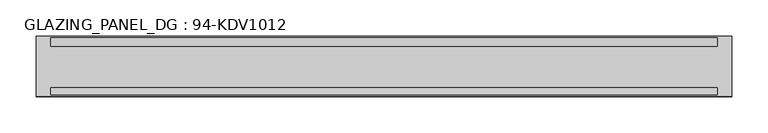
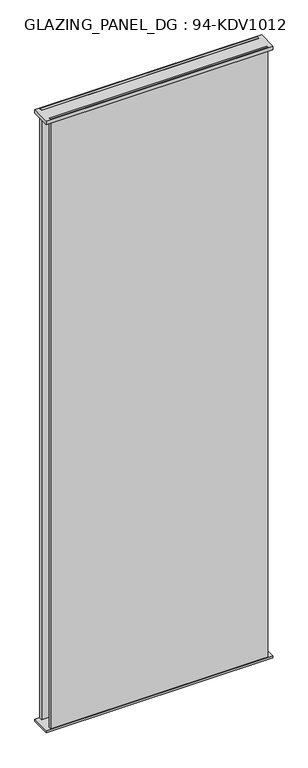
"""IFC4 building model written with IfcOpenShell, lengths in millimetres: plate geometry, GLAZING_PANEL_DG : 94-KDV1012."""

from ifc_helpers import new_model, si_unit, frame, origin, origin_with_axes, place, context, project, spatial, polyline, outline, extrude, source, transform, mapped, element, save


def glazing_panel_dg_94_kdv1012_673c4e6c(model_context):
    return source(origin(), model_context, "Body", "SweptSolid", [
        extrude(outline(polyline([(460.0, -39.5), (-460.0, -39.5), (-460.0, -29.5), (460.0, -29.5), (460.0, -39.5)])), origin_with_axes(), (0.0, 0.0, 1.0), 2739.0),
        extrude(outline(polyline([(460.0, 27.5), (-460.0, 27.5), (-460.0, 39.5), (460.0, 39.5), (460.0, 27.5)])), origin_with_axes(), (0.0, 0.0, 1.0), 2739.0),
        extrude(outline(polyline([(480.0, 41.5), (480.0, -41.5), (-480.0, -41.5), (-480.0, 41.5), (480.0, 41.5)])), frame((0.0, 0.0, 2724.0), z_axis=(0.0, 0.0, 1.0), x_axis=(1.0, 0.0, 0.0)), (0.0, 0.0, 1.0), 15.0),
        extrude(outline(polyline([(480.0, -41.5), (-480.0, -41.5), (-480.0, 41.5), (480.0, 41.5), (480.0, -41.5)])), origin_with_axes(), (0.0, 0.0, 1.0), 9.0),
    ])


if __name__ == "__main__":
    model = new_model("IFC4")
    model_context = context("Model", 3, world=origin())
    ifc_project = project(units=[si_unit("LENGTHUNIT", "METRE", prefix="MILLI")], contexts=[model_context])
    site = spatial("IfcSite", under=ifc_project)
    building = spatial("IfcBuilding", under=site)
    placement = place(None, origin())
    glazing_panel_dg_94_kdv1012_shape = glazing_panel_dg_94_kdv1012_673c4e6c(model_context)
    element("IfcPlate", 1, ObjectType="GLAZING_PANEL_DG : 94-KDV1012", at=placement, inside=building, context=model_context, shape_type="MappedRepresentation", body=[
        mapped(glazing_panel_dg_94_kdv1012_shape, transform((0.0, 0.0, 0.0), x_axis=(1.0, 0.0, 0.0), y_axis=(0.0, 1.0, 0.0), z_axis=(0.0, 0.0, 1.0))),
    ])
    save(model, "model.ifc")
